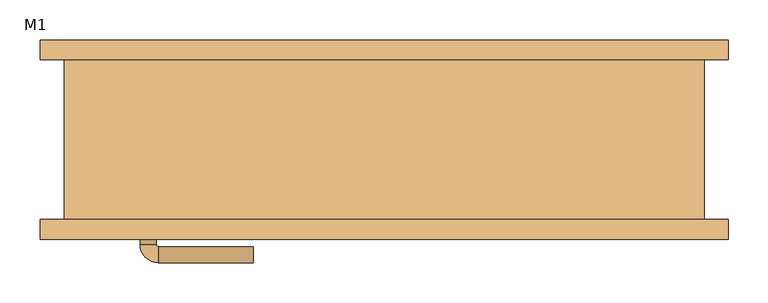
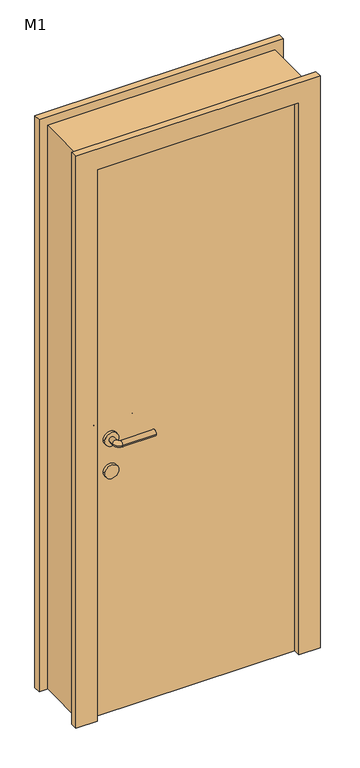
"""IFC4 building model written with IfcOpenShell, lengths in millimetres: door geometry, 单嵌板木门 1 : M1."""

from ifc_helpers import new_model, si_unit, point, frame, frame_2d, origin, origin_with_axes, place, context, project, spatial, polyline, circle_curve, ellipse_curve, trimmed, segment, composite_curve, outline, extrude, source, transform, mapped, element, save
from ifc_brep_helpers import plane_surface, cylinder_surface, revolved_surface, advanced_brep


def m1_6b3c849d(model_context):
    return source(origin(), model_context, "Body", "SolidModel", [
        extrude(outline(composite_curve([segment(trimmed(circle_curve(frame_2d((900.0, -295.0)), 25.0), [point((900.0, -270.0))], [point((900.0, -320.0))], False, "CARTESIAN"), True, "CONTINUOUS"), segment(trimmed(circle_curve(frame_2d((900.0, -295.0)), 25.0), [point((900.0, -320.0))], [point((900.0, -270.0))], False, "CARTESIAN"), True, "CONTINUOUS")], self_intersect=False)), frame((0.0, -50.0, 0.0), z_axis=(0.0, 1.0, 0.0), x_axis=(0.0, 0.0, 1.0)), (0.0, 0.0, 1.0), 10.0),
        extrude(outline(composite_curve([segment(trimmed(circle_curve(frame_2d((900.0, -295.0)), 25.0), [point((900.0, -270.0))], [point((900.0, -320.0))], False, "CARTESIAN"), True, "CONTINUOUS"), segment(trimmed(circle_curve(frame_2d((900.0, -295.0)), 25.0), [point((900.0, -320.0))], [point((900.0, -270.0))], False, "CARTESIAN"), True, "CONTINUOUS")], self_intersect=False)), frame((0.0, -110.0, 0.0), z_axis=(0.0, 1.0, 0.0), x_axis=(0.0, 0.0, 1.0)), (0.0, 0.0, 1.0), 10.0),
        advanced_brep(
        [(-305.0, -40.0, 1020.0), (-285.0, -40.0, 1020.0), (-305.0, -19.386645, 1020.0), (-285.0, -19.386645, 1020.0), (-163.419036, 3.580964, 1020.0), (-163.419036, -16.419036, 1020.0), (-282.0323911, -16.419036, 1020.0), (-282.0323911, 3.580964, 1020.0)],
        [
            (0, 1, circle_curve(frame((-295.0, -40.0, 1020.0), z_axis=(0.0, -1.0, 0.0), x_axis=(1.0, 0.0, 0.0)), 10.0)),
            (1, 0, circle_curve(frame((-295.0, -40.0, 1020.0), z_axis=(0.0, -1.0, 0.0), x_axis=(1.0, 0.0, 0.0)), 10.0)),
            (0, 2),
            (2, 3, circle_curve(frame((-295.0, -19.386645, 1020.0), z_axis=(0.0, -1.0, 0.0), x_axis=(1.0, 0.0, 0.0)), 10.0)),
            (3, 1),
            (3, 2, circle_curve(frame((-295.0, -19.386645, 1020.0), z_axis=(0.0, -1.0, 0.0), x_axis=(1.0, 0.0, 0.0)), 10.0)),
            (4, 5, circle_curve(frame((-163.419036, -6.419036, 1020.0), z_axis=(1.0, 0.0, 0.0), x_axis=(0.0, -1.0, 0.0)), 10.0)),
            (5, 4, circle_curve(frame((-163.419036, -6.419036, 1020.0), z_axis=(1.0, 0.0, 0.0), x_axis=(0.0, -1.0, 0.0)), 10.0)),
            (6, 7, circle_curve(frame((-282.0323911, -6.419036, 1020.0), z_axis=(-1.0, 0.0, 0.0), x_axis=(0.0, -1.0, 0.0)), 10.0)),
            (7, 2, circle_curve(frame((-282.0323911, -19.386645, 1020.0), z_axis=(0.0, 0.0, 1.0), x_axis=(-1.0, 0.0, 0.0)), 22.9676089)),
            (3, 6, circle_curve(frame((-282.0323911, -19.386645, 1020.0), z_axis=(0.0, 0.0, -1.0), x_axis=(-1.0, 0.0, 0.0)), 2.9676089)),
            (7, 6, circle_curve(frame((-282.0323911, -6.419036, 1020.0), z_axis=(-1.0, 0.0, 0.0), x_axis=(0.0, -1.0, 0.0)), 10.0)),
            (6, 5),
            (4, 7),
        ],
        [
            plane_surface(frame((-295.0, -40.0, 900.0), z_axis=(0.0, -1.0, 0.0), x_axis=(0.0, 0.0, 1.0))),
            cylinder_surface(frame((-295.0, -40.0, 1020.0), z_axis=(0.0, -1.0, 0.0), x_axis=(1.0, 0.0, 0.0)), 10.0),
            plane_surface(frame((-163.419036, -6.419036, 900.0), z_axis=(1.0, 0.0, 0.0), x_axis=(0.0, 0.0, 1.0))),
            revolved_surface(trimmed(ellipse_curve(frame((-295.0, -19.386645, 1020.0), z_axis=(0.0, 1.0, 0.0), x_axis=(1.0, 0.0, 0.0)), 10.0, 10.0), [point((-305.0, -19.386645, 1020.0))], [point((-285.0, -19.386645, 1020.0))], True, "CARTESIAN"), (-282.0323911, -19.386645, 900.0), (0.0, 0.0, 1.0)),
            revolved_surface(trimmed(ellipse_curve(frame((-295.0, -19.386645, 1020.0), z_axis=(0.0, 1.0, 0.0), x_axis=(1.0, 0.0, 0.0)), 10.0, 10.0), [point((-285.0, -19.386645, 1020.0))], [point((-305.0, -19.386645, 1020.0))], True, "CARTESIAN"), (-282.0323911, -19.386645, 900.0), (0.0, 0.0, 1.0)),
            cylinder_surface(frame((-282.0323911, -6.419036, 1020.0), z_axis=(-1.0, 0.0, 0.0), x_axis=(0.0, -1.0, 0.0)), 10.0),
        ],
        [
            (0, [[1, 2]]),
            (1, [[3, 4, 5, -1]]),
            (1, [[-5, 6, -3, -2]]),
            (2, [[7, 8]]),
            (3, [[9, 10, -6, 11]]),
            (4, [[12, -11, -4, -10]]),
            (5, [[13, -7, 14, -9]]),
            (5, [[-14, -8, -13, -12]]),
        ],
    ),
        extrude(outline(composite_curve([segment(trimmed(circle_curve(frame_2d((1020.0, -295.0)), 25.0), [point((1020.0, -270.0))], [point((1020.0, -320.0))], False, "CARTESIAN"), True, "CONTINUOUS"), segment(trimmed(circle_curve(frame_2d((1020.0, -295.0)), 25.0), [point((1020.0, -320.0))], [point((1020.0, -270.0))], False, "CARTESIAN"), True, "CONTINUOUS")], self_intersect=False)), frame((0.0, -50.0, 0.0), z_axis=(0.0, 1.0, 0.0), x_axis=(0.0, 0.0, 1.0)), (0.0, 0.0, 1.0), 10.0),
        advanced_brep(
        [(-285.0, -110.0, 1020.0), (-305.0, -110.0, 1020.0), (-305.0, -130.6133551, 1020.0), (-285.0, -130.6133551, 1020.0), (-163.419036, -133.580964, 1020.0), (-163.419036, -153.580964, 1020.0), (-282.0323911, -153.580964, 1020.0), (-282.0323911, -133.580964, 1020.0)],
        [
            (0, 1, circle_curve(frame((-295.0, -110.0, 1020.0), z_axis=(0.0, 1.0, 0.0), x_axis=(-1.0, 0.0, 0.0)), 10.0)),
            (1, 0, circle_curve(frame((-295.0, -110.0, 1020.0), z_axis=(0.0, 1.0, 0.0), x_axis=(-1.0, 0.0, 0.0)), 10.0)),
            (1, 2),
            (2, 3, circle_curve(frame((-295.0, -130.6133551, 1020.0), z_axis=(0.0, 1.0, 0.0), x_axis=(-1.0, 0.0, 0.0)), 10.0)),
            (3, 0),
            (3, 2, circle_curve(frame((-295.0, -130.6133551, 1020.0), z_axis=(0.0, 1.0, 0.0), x_axis=(-1.0, 0.0, 0.0)), 10.0)),
            (4, 5, circle_curve(frame((-163.419036, -143.580964, 1020.0), z_axis=(1.0, 0.0, 0.0), x_axis=(0.0, -1.0, 0.0)), 10.0)),
            (5, 4, circle_curve(frame((-163.419036, -143.580964, 1020.0), z_axis=(1.0, 0.0, 0.0), x_axis=(0.0, -1.0, 0.0)), 10.0)),
            (6, 7, circle_curve(frame((-282.0323911, -143.580964, 1020.0), z_axis=(-1.0, 0.0, 0.0), x_axis=(0.0, -1.0, 0.0)), 10.0)),
            (7, 3, circle_curve(frame((-282.0323911, -130.6133551, 1020.0), z_axis=(0.0, 0.0, -1.0), x_axis=(-1.0, 0.0, 0.0)), 2.9676089)),
            (2, 6, circle_curve(frame((-282.0323911, -130.6133551, 1020.0), z_axis=(0.0, 0.0, 1.0), x_axis=(-1.0, 0.0, 0.0)), 22.9676089)),
            (7, 6, circle_curve(frame((-282.0323911, -143.580964, 1020.0), z_axis=(-1.0, 0.0, 0.0), x_axis=(0.0, -1.0, 0.0)), 10.0)),
            (6, 5),
            (4, 7),
        ],
        [
            plane_surface(frame((-295.0, -110.0, 900.0), z_axis=(0.0, 1.0, 0.0), x_axis=(0.0, 0.0, 1.0))),
            cylinder_surface(frame((-295.0, -110.0, 1020.0), z_axis=(0.0, 1.0, 0.0), x_axis=(-1.0, 0.0, 0.0)), 10.0),
            plane_surface(frame((-163.419036, -143.580964, 900.0), z_axis=(1.0, 0.0, 0.0), x_axis=(0.0, 0.0, 1.0))),
            revolved_surface(trimmed(ellipse_curve(frame((-295.0, -130.6133551, 1020.0), z_axis=(0.0, -1.0, 0.0), x_axis=(-1.0, 0.0, 0.0)), 10.0, 10.0), [point((-285.0, -130.6133551, 1020.0))], [point((-305.0, -130.6133551, 1020.0))], True, "CARTESIAN"), (-282.0323911, -130.6133551, 900.0), (0.0, 0.0, -1.0)),
            revolved_surface(trimmed(ellipse_curve(frame((-295.0, -130.6133551, 1020.0), z_axis=(0.0, -1.0, 0.0), x_axis=(-1.0, 0.0, 0.0)), 10.0, 10.0), [point((-305.0, -130.6133551, 1020.0))], [point((-285.0, -130.6133551, 1020.0))], True, "CARTESIAN"), (-282.0323911, -130.6133551, 900.0), (0.0, 0.0, -1.0)),
            cylinder_surface(frame((-282.0323911, -143.580964, 1020.0), z_axis=(-1.0, 0.0, 0.0), x_axis=(0.0, -1.0, 0.0)), 10.0),
        ],
        [
            (0, [[1, 2]]),
            (1, [[3, 4, 5, -2]]),
            (1, [[-5, 6, -3, -1]]),
            (2, [[7, 8]]),
            (3, [[9, 10, -4, 11]]),
            (4, [[12, -11, -6, -10]]),
            (5, [[13, -7, 14, -9]]),
            (5, [[-14, -8, -13, -12]]),
        ],
    ),
        extrude(outline(composite_curve([segment(trimmed(circle_curve(frame_2d((1020.0, -295.0)), 25.0), [point((1020.0, -270.0))], [point((1020.0, -320.0))], False, "CARTESIAN"), True, "CONTINUOUS"), segment(trimmed(circle_curve(frame_2d((1020.0, -295.0)), 25.0), [point((1020.0, -320.0))], [point((1020.0, -270.0))], False, "CARTESIAN"), True, "CONTINUOUS")], self_intersect=False)), frame((0.0, -110.0, 0.0), z_axis=(0.0, 1.0, 0.0), x_axis=(0.0, 0.0, 1.0)), (0.0, 0.0, 1.0), 10.0),
        extrude(outline(polyline([(0.0, 430.0), (2130.0, 430.0), (2130.0, -430.0), (0.0, -430.0), (0.0, -355.0), (2055.0, -355.0), (2055.0, 355.0), (0.0, 355.0), (0.0, 430.0)])), frame((0.0, -125.0, 0.0), z_axis=(0.0, 1.0, 0.0), x_axis=(0.0, 0.0, 1.0)), (0.0, 0.0, 1.0), 25.0),
        extrude(outline(polyline([(2130.0, 430.0), (2130.0, -430.0), (0.0, -430.0), (0.0, -355.0), (2055.0, -355.0), (2055.0, 355.0), (0.0, 355.0), (0.0, 430.0), (2130.0, 430.0)])), frame((0.0, 100.0, 0.0), z_axis=(0.0, 1.0, 0.0), x_axis=(0.0, 0.0, 1.0)), (0.0, 0.0, 1.0), 25.0),
        extrude(outline(polyline([(355.0, -50.0), (355.0, -100.0), (-355.0, -100.0), (-355.0, -50.0), (355.0, -50.0)])), origin_with_axes(), (0.0, 0.0, 1.0), 2055.0),
        extrude(outline(polyline([(2100.0, -400.0), (0.0, -400.0), (0.0, -355.0), (2055.0, -355.0), (2055.0, 355.0), (0.0, 355.0), (0.0, 400.0), (2100.0, 400.0), (2100.0, -400.0)])), frame((0.0, -100.0, 0.0), z_axis=(0.0, 1.0, 0.0), x_axis=(0.0, 0.0, 1.0)), (0.0, 0.0, 1.0), 200.0),
    ])


if __name__ == "__main__":
    model = new_model("IFC4")
    model_context = context("Model", 3, world=origin())
    ifc_project = project(units=[si_unit("LENGTHUNIT", "METRE", prefix="MILLI")], contexts=[model_context])
    site = spatial("IfcSite", under=ifc_project)
    building = spatial("IfcBuilding", under=site)
    placement = place(None, origin())
    m1_shape = m1_6b3c849d(model_context)
    element("IfcDoor", 1, ObjectType="单嵌板木门 1 : M1", at=placement, inside=building, context=model_context, shape_type="MappedRepresentation", body=[
        mapped(m1_shape, transform((0.0, 0.0, 0.0), x_axis=(1.0, 0.0, 0.0), y_axis=(0.0, 1.0, 0.0), z_axis=(0.0, 0.0, 1.0))),
    ])
    save(model, "model.ifc")
